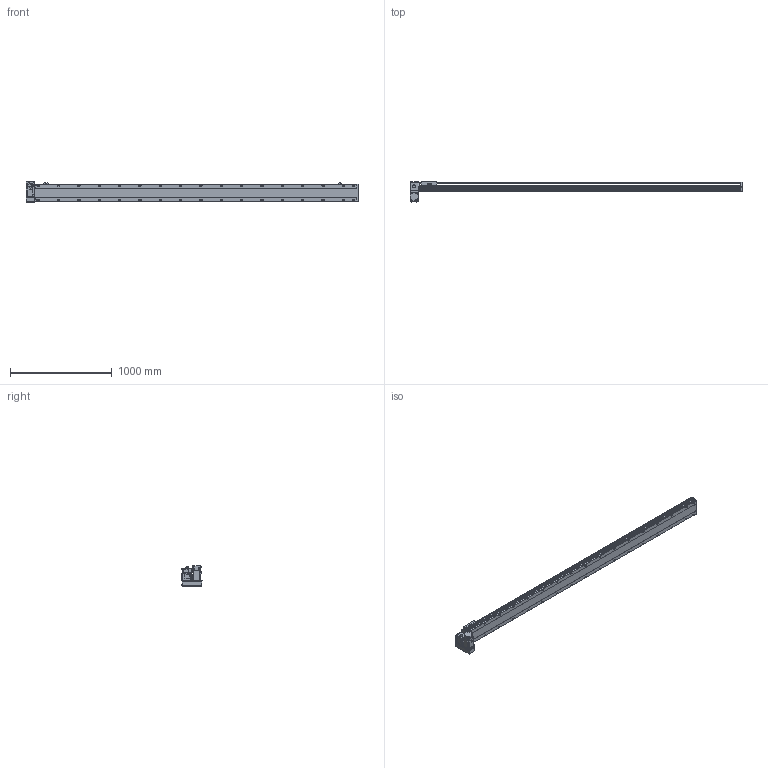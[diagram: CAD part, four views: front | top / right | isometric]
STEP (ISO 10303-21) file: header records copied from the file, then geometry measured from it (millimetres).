
FILE_DESCRIPTION( ( 'STEP AP214' ), '1' );
FILE_NAME( 'x:/temp/worker_4/temp/exporttempdir_2248_366_z4T8F/format_0/PBS170-P40-S2900-LD-T75-C1-N(0).stp', '2022-06-07T07:56:52', ( 'License CC BY-ND 4.0' ), ( 'CADENAS' ), ' ', 'PARTsolutions', ' ' );
FILE_SCHEMA( ( 'AUTOMOTIVE_DESIGN { 1 0 10303 214 1 1 1 1 }' ) );
Length unit declared in the file: millimetre
Products named in the file (7): PBS170-P40-S2900-LD-T75-C1-N(0); _PBS170-S2900()_body; _PBS170T-LD_motors; _T75-p1; _PBS170_sliser; _PBS170_plant; _PBS170_sensor
Assembly tree (8 placements, depth 2):
  PBS170-P40-S2900-LD-T75-C1-N(0)
    _PBS170-S2900()_body
    _PBS170T-LD_motors
    _T75-p1
    _PBS170_sliser
    _PBS170_plant
    _PBS170_sensor  x3
Bounding box: 3263 x 201 x 197.3 mm (x, y, z)
Volume: 24527413.1 mm3; surface area: 3073959.7 mm2
Topology: 8 solids, 8 shells, 1226 faces, 3235 edges, 2108 vertices
Faces by surface type: plane 741, cylinder 411, cone 64, sphere 8, torus 2
Full cylindrical faces by diameter (mm): 3.242 x4, 4 x2, 4.4 x4, 4.5 x6, 4.917 x4, 6 x9, 6.647 x42, 7 x2, 7.5 x4, 8 x8, 8.5 x34, 10 x4, 10.5 x34, 11 x2, 30 x2, 40 x1, 70 x1
Entity records: 45518 total; most frequent: CARTESIAN_POINT 7733, DIRECTION 5930, ORIENTED_EDGE 5568, EDGE_CURVE 2784, AXIS2_PLACEMENT_3D 2107, VERTEX_POINT 1946, LINE 1716, VECTOR 1716
